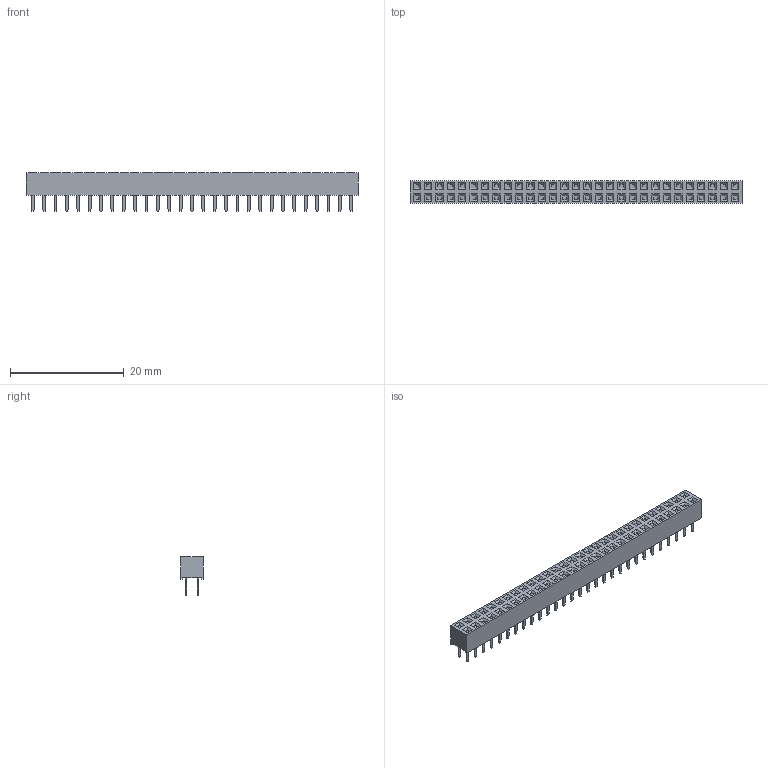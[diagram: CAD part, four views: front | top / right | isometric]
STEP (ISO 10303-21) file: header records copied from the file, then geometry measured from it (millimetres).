
FILE_DESCRIPTION (( 'STEP AP203' ), '1' );
FILE_NAME ('PM200-2-29-Z-4.0-PW4.0-XX(L6.8) (2.00双排 排母 直针 塑宽4.0 塑高4.0-HCTL).STEP', '2026-03-30T06:21:32', ( '' ), ( '' ), 'SwSTEP 2.0', 'SolidWorks 2025', '' );
FILE_SCHEMA (( 'CONFIG_CONTROL_DESIGN' ));
Length unit declared in the file: millimetre
Products named in the file (1): PM200-2-29-Z-4.0-PW4.0-XX(L6.8) (2.00双排 排母 直针 塑宽4.0 塑高4.0-HCTL)
Bounding box: 58.4 x 4 x 6.8 mm (x, y, z)
Volume: 871 mm3; surface area: 1309.8 mm2
Topology: 1 solids, 1 shells, 1054 faces, 2576 edges, 1640 vertices
Faces by surface type: plane 1054
Entity records: 30061 total; most frequent: CARTESIAN_POINT 5271, ORIENTED_EDGE 5152, DIRECTION 4686, VECTOR 2576, EDGE_CURVE 2576, LINE 2576, VERTEX_POINT 1640, EDGE_LOOP 1170
